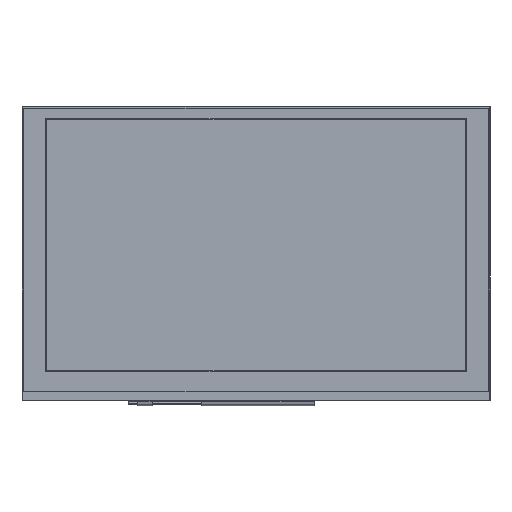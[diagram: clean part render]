
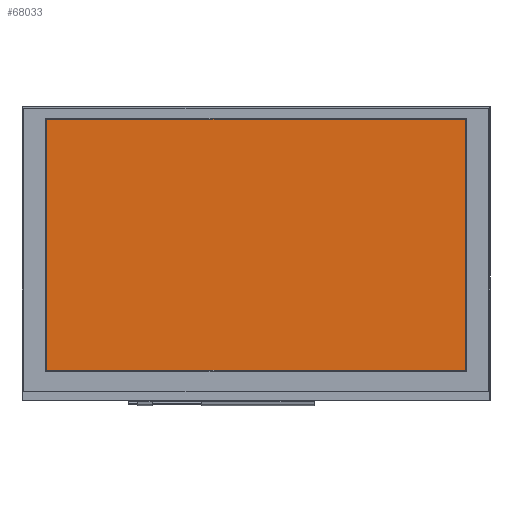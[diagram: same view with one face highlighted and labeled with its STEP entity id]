
A CAD part, top view. The second image highlights one B-rep face of the part: STEP entity #68033.
In plain terms, the highlighted planar face has unit normal (0, 0, 1).
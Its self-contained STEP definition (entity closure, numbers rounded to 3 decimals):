
#21399 = DIRECTION ( 'NONE',  ( 0., 1., 0. ) ) ;
#23483 = PLANE ( 'NONE',  #126629 ) ;
#64279 = CARTESIAN_POINT ( 'NONE',  ( -54., -32.4, 1.25 ) ) ;
#68033 = ADVANCED_FACE ( 'NONE', ( #76281 ), #23483, .T. ) ;
#76281 = FACE_OUTER_BOUND ( 'NONE', #591074, .T. ) ;
#89290 = CARTESIAN_POINT ( 'NONE',  ( -54., 32.4, 1.25 ) ) ;
#126133 = CARTESIAN_POINT ( 'NONE',  ( 0., 0., 1.25 ) ) ;
#126629 = AXIS2_PLACEMENT_3D ( 'NONE', #126133, #506331, #439924 ) ;
#159365 = VERTEX_POINT ( 'NONE', #186169 ) ;
#166210 = LINE ( 'NONE', #268944, #497515 ) ;
#186169 = CARTESIAN_POINT ( 'NONE',  ( 54., 32.4, 1.25 ) ) ;
#192129 = VECTOR ( 'NONE', #251357, 1000. ) ;
#251357 = DIRECTION ( 'NONE',  ( 1., 0., 0. ) ) ;
#268944 = CARTESIAN_POINT ( 'NONE',  ( 54., 0., 1.25 ) ) ;
#275827 = EDGE_CURVE ( 'NONE', #297337, #357189, #491901, .T. ) ;
#297337 = VERTEX_POINT ( 'NONE', #64279 ) ;
#300883 = ORIENTED_EDGE ( 'NONE', *, *, #353858, .F. ) ;
#302295 = VECTOR ( 'NONE', #586992, 1000. ) ;
#322304 = ORIENTED_EDGE ( 'NONE', *, *, #426402, .F. ) ;
#347219 = CARTESIAN_POINT ( 'NONE',  ( 54., -32.4, 1.25 ) ) ;
#353858 = EDGE_CURVE ( 'NONE', #607228, #297337, #396840, .T. ) ;
#357189 = VERTEX_POINT ( 'NONE', #89290 ) ;
#396840 = LINE ( 'NONE', #406100, #302295 ) ;
#406100 = CARTESIAN_POINT ( 'NONE',  ( 0., -32.4, 1.25 ) ) ;
#406323 = ORIENTED_EDGE ( 'NONE', *, *, #275827, .F. ) ;
#426402 = EDGE_CURVE ( 'NONE', #159365, #607228, #166210, .T. ) ;
#439924 = DIRECTION ( 'NONE',  ( 1., 0., 0. ) ) ;
#445150 = CARTESIAN_POINT ( 'NONE',  ( -54., 0., 1.25 ) ) ;
#468393 = EDGE_CURVE ( 'NONE', #357189, #159365, #581832, .T. ) ;
#491901 = LINE ( 'NONE', #445150, #520676 ) ;
#497515 = VECTOR ( 'NONE', #508886, 1000. ) ;
#506331 = DIRECTION ( 'NONE',  ( 0., 0., 1. ) ) ;
#508886 = DIRECTION ( 'NONE',  ( 0., -1., 0. ) ) ;
#520274 = ORIENTED_EDGE ( 'NONE', *, *, #468393, .F. ) ;
#520676 = VECTOR ( 'NONE', #21399, 1000. ) ;
#544367 = CARTESIAN_POINT ( 'NONE',  ( 0., 32.4, 1.25 ) ) ;
#581832 = LINE ( 'NONE', #544367, #192129 ) ;
#586992 = DIRECTION ( 'NONE',  ( -1., 0., 0. ) ) ;
#591074 = EDGE_LOOP ( 'NONE', ( #406323, #300883, #322304, #520274 ) ) ;
#607228 = VERTEX_POINT ( 'NONE', #347219 ) ;
